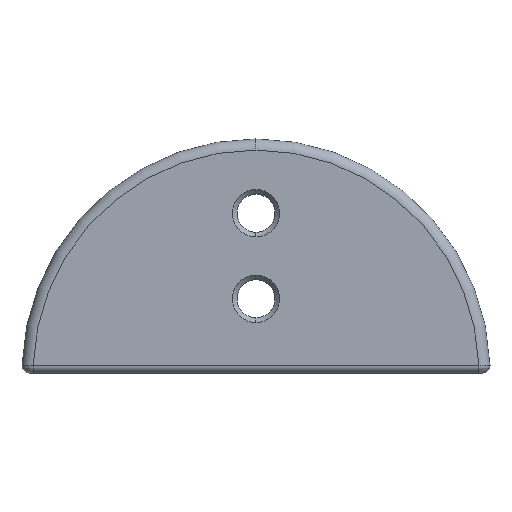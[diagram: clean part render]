
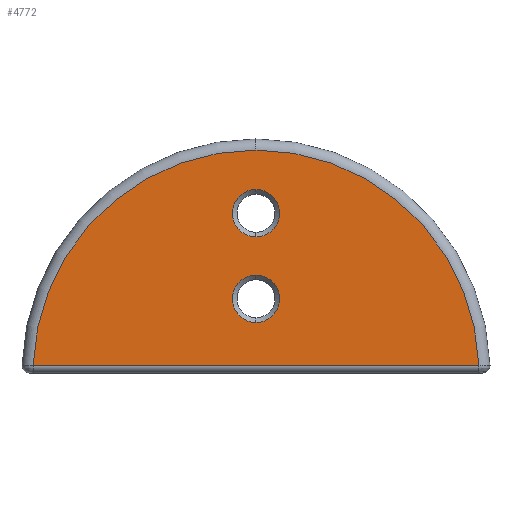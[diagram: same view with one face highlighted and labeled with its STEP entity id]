
A CAD part, left-side view. The second image highlights one B-rep face of the part: STEP entity #4772.
In plain terms, the highlighted planar face has unit normal (-1, 0, 0).
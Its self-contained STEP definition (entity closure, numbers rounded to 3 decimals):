
#6 = VERTEX_POINT ( 'NONE', #2962 ) ;
#79 = DIRECTION ( 'NONE',  ( 0., 0., 1. ) ) ;
#179 = DIRECTION ( 'NONE',  ( 0., 0., -1. ) ) ;
#248 = AXIS2_PLACEMENT_3D ( 'NONE', #1861, #5024, #4624 ) ;
#308 = DIRECTION ( 'NONE',  ( 1., 0., 0. ) ) ;
#331 = ORIENTED_EDGE ( 'NONE', *, *, #3532, .T. ) ;
#484 = CARTESIAN_POINT ( 'NONE',  ( 0., 0., 0. ) ) ;
#547 = EDGE_LOOP ( 'NONE', ( #683, #4330 ) ) ;
#683 = ORIENTED_EDGE ( 'NONE', *, *, #4320, .T. ) ;
#687 = AXIS2_PLACEMENT_3D ( 'NONE', #4803, #4033, #2427 ) ;
#772 = VERTEX_POINT ( 'NONE', #3931 ) ;
#851 = CARTESIAN_POINT ( 'NONE',  ( 0., 29.983, 1. ) ) ;
#854 = EDGE_LOOP ( 'NONE', ( #1239, #2303 ) ) ;
#1073 = FACE_BOUND ( 'NONE', #854, .T. ) ;
#1103 = EDGE_CURVE ( 'NONE', #3821, #6, #1214, .T. ) ;
#1144 = LINE ( 'NONE', #3095, #2204 ) ;
#1214 = CIRCLE ( 'NONE', #4263, 3.188 ) ;
#1239 = ORIENTED_EDGE ( 'NONE', *, *, #3746, .T. ) ;
#1413 = EDGE_CURVE ( 'NONE', #4309, #3165, #1708, .T. ) ;
#1708 = CIRCLE ( 'NONE', #4392, 3.188 ) ;
#1757 = CARTESIAN_POINT ( 'NONE',  ( 0., -29.983, 1. ) ) ;
#1776 = CARTESIAN_POINT ( 'NONE',  ( 0., 0., 21.5 ) ) ;
#1825 = CARTESIAN_POINT ( 'NONE',  ( 0., 0., 13.188 ) ) ;
#1861 = CARTESIAN_POINT ( 'NONE',  ( 0., 0., 0. ) ) ;
#1948 = AXIS2_PLACEMENT_3D ( 'NONE', #1776, #2963, #179 ) ;
#2067 = DIRECTION ( 'NONE',  ( -1., 0., 0. ) ) ;
#2204 = VECTOR ( 'NONE', #3562, 1000. ) ;
#2240 = DIRECTION ( 'NONE',  ( 1., 0., 0. ) ) ;
#2271 = EDGE_CURVE ( 'NONE', #4722, #3071, #1144, .T. ) ;
#2303 = ORIENTED_EDGE ( 'NONE', *, *, #1413, .T. ) ;
#2328 = ORIENTED_EDGE ( 'NONE', *, *, #4022, .T. ) ;
#2427 = DIRECTION ( 'NONE',  ( 0., 0., 1. ) ) ;
#2686 = DIRECTION ( 'NONE',  ( 0., 0., -1. ) ) ;
#2842 = CARTESIAN_POINT ( 'NONE',  ( 0., 0., 10. ) ) ;
#2909 = FACE_BOUND ( 'NONE', #547, .T. ) ;
#2962 = CARTESIAN_POINT ( 'NONE',  ( 0., 0., 24.688 ) ) ;
#2963 = DIRECTION ( 'NONE',  ( 1., 0., 0. ) ) ;
#3071 = VERTEX_POINT ( 'NONE', #1757 ) ;
#3095 = CARTESIAN_POINT ( 'NONE',  ( 0., 0., 1. ) ) ;
#3131 = CIRCLE ( 'NONE', #3994, 30. ) ;
#3165 = VERTEX_POINT ( 'NONE', #1825 ) ;
#3396 = CARTESIAN_POINT ( 'NONE',  ( 0., 0., 6.812 ) ) ;
#3479 = CIRCLE ( 'NONE', #4069, 3.188 ) ;
#3532 = EDGE_CURVE ( 'NONE', #3071, #772, #3131, .T. ) ;
#3562 = DIRECTION ( 'NONE',  ( 0., -1., 0. ) ) ;
#3746 = EDGE_CURVE ( 'NONE', #3165, #4309, #3479, .T. ) ;
#3804 = PLANE ( 'NONE',  #248 ) ;
#3821 = VERTEX_POINT ( 'NONE', #4055 ) ;
#3931 = CARTESIAN_POINT ( 'NONE',  ( 0., 0., 30. ) ) ;
#3994 = AXIS2_PLACEMENT_3D ( 'NONE', #484, #2067, #79 ) ;
#4022 = EDGE_CURVE ( 'NONE', #772, #4722, #4250, .T. ) ;
#4033 = DIRECTION ( 'NONE',  ( -1., 0., 0. ) ) ;
#4055 = CARTESIAN_POINT ( 'NONE',  ( 0., 0., 18.312 ) ) ;
#4069 = AXIS2_PLACEMENT_3D ( 'NONE', #2842, #4855, #4491 ) ;
#4102 = CIRCLE ( 'NONE', #1948, 3.188 ) ;
#4154 = CARTESIAN_POINT ( 'NONE',  ( 0., 0., 21.5 ) ) ;
#4195 = ORIENTED_EDGE ( 'NONE', *, *, #2271, .T. ) ;
#4250 = CIRCLE ( 'NONE', #687, 30. ) ;
#4263 = AXIS2_PLACEMENT_3D ( 'NONE', #4154, #2240, #5008 ) ;
#4291 = FACE_OUTER_BOUND ( 'NONE', #4437, .T. ) ;
#4309 = VERTEX_POINT ( 'NONE', #3396 ) ;
#4320 = EDGE_CURVE ( 'NONE', #6, #3821, #4102, .T. ) ;
#4330 = ORIENTED_EDGE ( 'NONE', *, *, #1103, .T. ) ;
#4392 = AXIS2_PLACEMENT_3D ( 'NONE', #5064, #308, #2686 ) ;
#4437 = EDGE_LOOP ( 'NONE', ( #331, #2328, #4195 ) ) ;
#4491 = DIRECTION ( 'NONE',  ( 0., 0., -1. ) ) ;
#4624 = DIRECTION ( 'NONE',  ( 0., 0., 1. ) ) ;
#4722 = VERTEX_POINT ( 'NONE', #851 ) ;
#4772 = ADVANCED_FACE ( 'NONE', ( #2909, #1073, #4291 ), #3804, .T. ) ;
#4803 = CARTESIAN_POINT ( 'NONE',  ( 0., 0., 0. ) ) ;
#4855 = DIRECTION ( 'NONE',  ( 1., 0., 0. ) ) ;
#5008 = DIRECTION ( 'NONE',  ( 0., 0., -1. ) ) ;
#5024 = DIRECTION ( 'NONE',  ( -1., 0., 0. ) ) ;
#5064 = CARTESIAN_POINT ( 'NONE',  ( 0., 0., 10. ) ) ;
